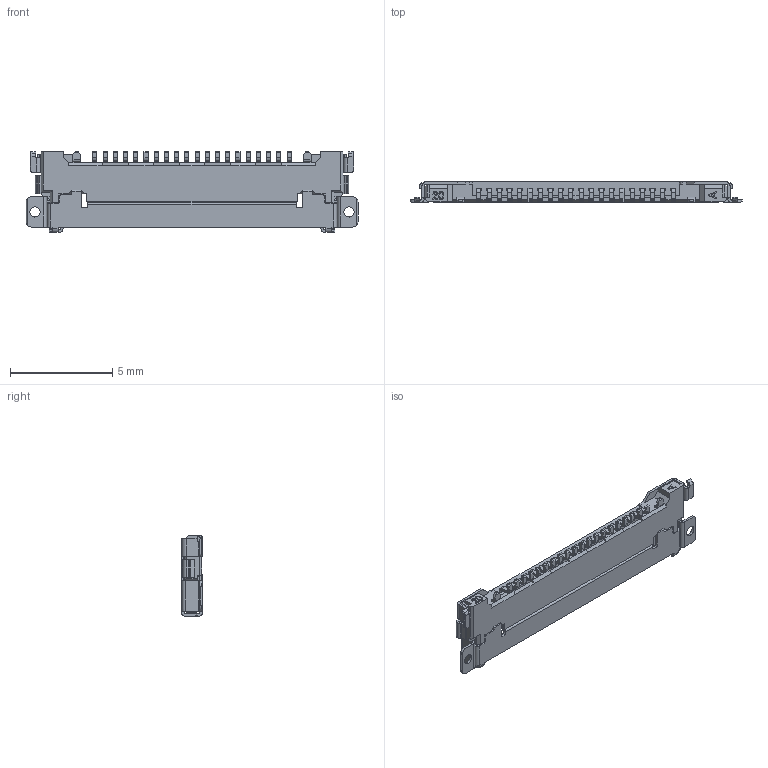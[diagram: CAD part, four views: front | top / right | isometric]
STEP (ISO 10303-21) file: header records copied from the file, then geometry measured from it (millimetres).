
FILE_DESCRIPTION (( 'STEP AP203' ), '1' );
FILE_NAME ('20455-A20E-x2C RECE ASS''Y STEP R7 ALL.STEP', '2014-06-05T02:34:02', ( 'kaihatsu-3dcad-1' ), ( 'Hewlett-Packard Company' ), 'SwSTEP 2.0', 'SolidWorks 2011', '' );
FILE_SCHEMA (( 'CONFIG_CONTROL_DESIGN' ));
Length unit declared in the file: millimetre
Products named in the file (1): 20455-A20E-x2C RECE ASS''Y STEP R7 ALL
Bounding box: 16.25 x 1 x 3.95 mm (x, y, z)
Volume: 30.5 mm3; surface area: 201 mm2
Topology: 1 solids, 10 shells, 1082 faces, 3070 edges, 2030 vertices
Faces by surface type: plane 679, cylinder 331, bspline 30, sphere 20, torus 16, cone 6
Entity records: 36019 total; most frequent: CARTESIAN_POINT 7413, ORIENTED_EDGE 6140, DIRECTION 5786, EDGE_CURVE 3070, LINE 2252, VECTOR 2252, VERTEX_POINT 2030, AXIS2_PLACEMENT_3D 1767
